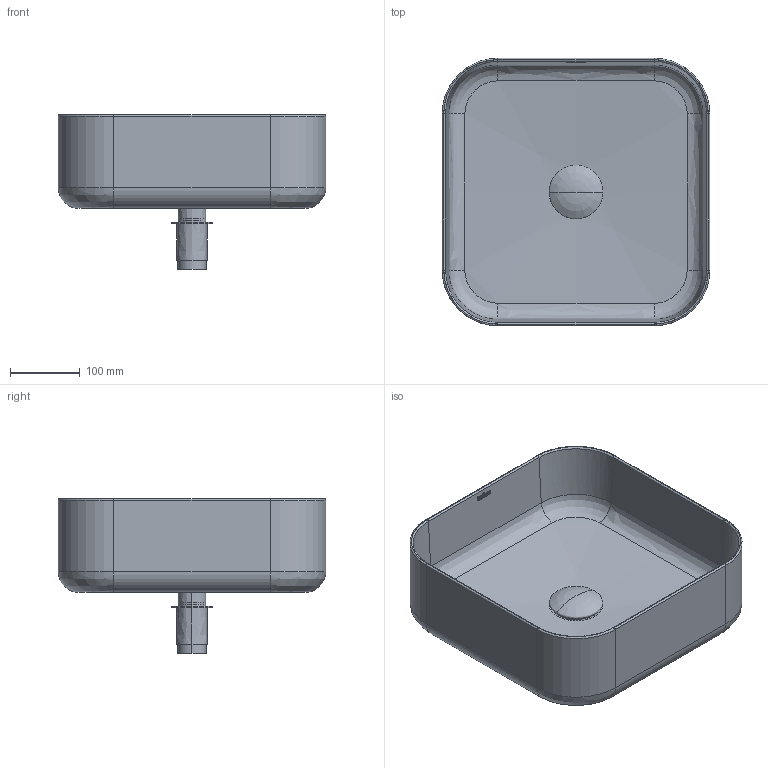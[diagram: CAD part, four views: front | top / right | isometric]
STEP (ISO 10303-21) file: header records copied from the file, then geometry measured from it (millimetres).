
FILE_DESCRIPTION(/* description */ (''),/* implementation_level */ '2;1');
FILE_NAME(/* name */ 'Bathco_New Stone Classic Washbasins Square_29092025_EXP',/* time_stamp */ '2025-09-29T10:45:59+02:00',/* author */ (''),/* organization */ (''),/* preprocessor_version */ 'ST-DEVELOPER v19.2',/* originating_system */ 'Rhino 8.23',/* authorisation */ '');
FILE_SCHEMA (('CONFIG_CONTROL_DESIGN'));
Length unit declared in the file: millimetre
Products named in the file (1): Document
Bounding box: 385 x 385 x 222.75 mm (x, y, z)
Volume: 3292798.2 mm3; surface area: 664532.1 mm2
Topology: 21 solids, 21 shells, 310 faces, 666 edges, 390 vertices
Faces by surface type: plane 135, bspline 95, cylinder 80
Entity records: 12578 total; most frequent: CARTESIAN_POINT 7066, ORIENTED_EDGE 1328, EDGE_CURVE 664, DIRECTION 642, AXIS2_PLACEMENT_3D 428, VERTEX_POINT 390, EDGE_LOOP 328, ADVANCED_FACE 310
